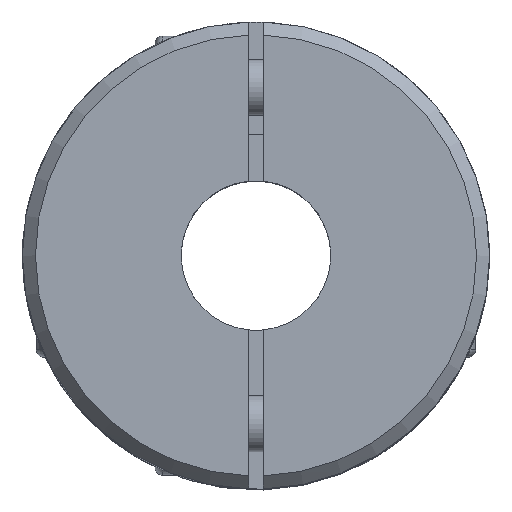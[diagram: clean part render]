
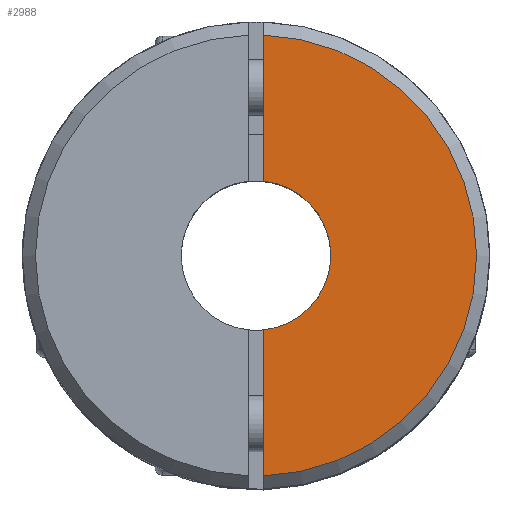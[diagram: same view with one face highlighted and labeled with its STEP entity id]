
A CAD part, top view. The second image highlights one B-rep face of the part: STEP entity #2988.
In plain terms, the highlighted planar face has unit normal (0, 0, 1).
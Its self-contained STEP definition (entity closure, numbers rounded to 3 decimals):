
#35 = ORIENTED_EDGE ( 'NONE', *, *, #60, .T. ) ;
#50 = CARTESIAN_POINT ( 'NONE',  ( 0.4, -3.98, 15.5 ) ) ;
#60 = EDGE_CURVE ( 'NONE', #2887, #3017, #2514, .T. ) ;
#540 = AXIS2_PLACEMENT_3D ( 'NONE', #3634, #1262, #2657 ) ;
#607 = EDGE_LOOP ( 'NONE', ( #994, #35, #1666, #948 ) ) ;
#617 = CARTESIAN_POINT ( 'NONE',  ( 0., 4., 15.5 ) ) ;
#678 = CIRCLE ( 'NONE', #3502, 4. ) ;
#704 = VECTOR ( 'NONE', #2470, 1000. ) ;
#726 = VECTOR ( 'NONE', #885, 1000. ) ;
#885 = DIRECTION ( 'NONE',  ( 0., -1., 0. ) ) ;
#910 = DIRECTION ( 'NONE',  ( 0., -1., 0. ) ) ;
#948 = ORIENTED_EDGE ( 'NONE', *, *, #3751, .F. ) ;
#958 = DIRECTION ( 'NONE',  ( 0., 0., 1. ) ) ;
#994 = ORIENTED_EDGE ( 'NONE', *, *, #1002, .T. ) ;
#998 = FACE_OUTER_BOUND ( 'NONE', #607, .T. ) ;
#1002 = EDGE_CURVE ( 'NONE', #4353, #2887, #1329, .T. ) ;
#1030 = CARTESIAN_POINT ( 'NONE',  ( 0.4, 3.98, 15.5 ) ) ;
#1207 = LINE ( 'NONE', #3005, #726 ) ;
#1227 = CARTESIAN_POINT ( 'NONE',  ( 0.4, -11.793, 15.5 ) ) ;
#1262 = DIRECTION ( 'NONE',  ( 0., 0., 1. ) ) ;
#1329 = LINE ( 'NONE', #4293, #704 ) ;
#1666 = ORIENTED_EDGE ( 'NONE', *, *, #2639, .T. ) ;
#2470 = DIRECTION ( 'NONE',  ( 0., -1., 0. ) ) ;
#2514 = CIRCLE ( 'NONE', #540, 11.8 ) ;
#2639 = EDGE_CURVE ( 'NONE', #3017, #3865, #1207, .T. ) ;
#2651 = CARTESIAN_POINT ( 'NONE',  ( 0., 0., 15.5 ) ) ;
#2657 = DIRECTION ( 'NONE',  ( 0., 1., 0. ) ) ;
#2887 = VERTEX_POINT ( 'NONE', #1227 ) ;
#2988 = ADVANCED_FACE ( 'NONE', ( #998 ), #4102, .F. ) ;
#3005 = CARTESIAN_POINT ( 'NONE',  ( 0.4, 15., 15.5 ) ) ;
#3017 = VERTEX_POINT ( 'NONE', #3142 ) ;
#3142 = CARTESIAN_POINT ( 'NONE',  ( 0.4, 11.793, 15.5 ) ) ;
#3229 = AXIS2_PLACEMENT_3D ( 'NONE', #617, #4130, #3411 ) ;
#3411 = DIRECTION ( 'NONE',  ( 0., 1., 0. ) ) ;
#3502 = AXIS2_PLACEMENT_3D ( 'NONE', #2651, #958, #910 ) ;
#3634 = CARTESIAN_POINT ( 'NONE',  ( 0., 0., 15.5 ) ) ;
#3751 = EDGE_CURVE ( 'NONE', #4353, #3865, #678, .T. ) ;
#3865 = VERTEX_POINT ( 'NONE', #1030 ) ;
#4102 = PLANE ( 'NONE',  #3229 ) ;
#4130 = DIRECTION ( 'NONE',  ( 0., 0., -1. ) ) ;
#4293 = CARTESIAN_POINT ( 'NONE',  ( 0.4, 15., 15.5 ) ) ;
#4353 = VERTEX_POINT ( 'NONE', #50 ) ;
